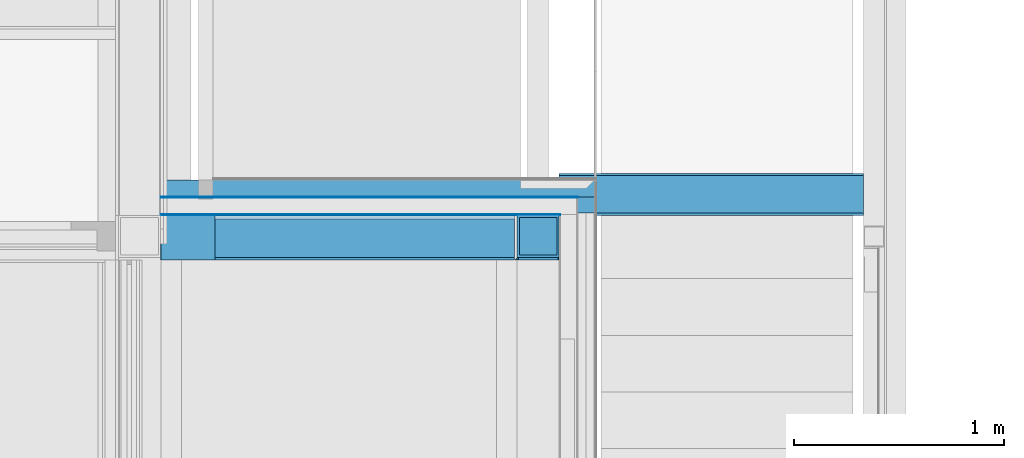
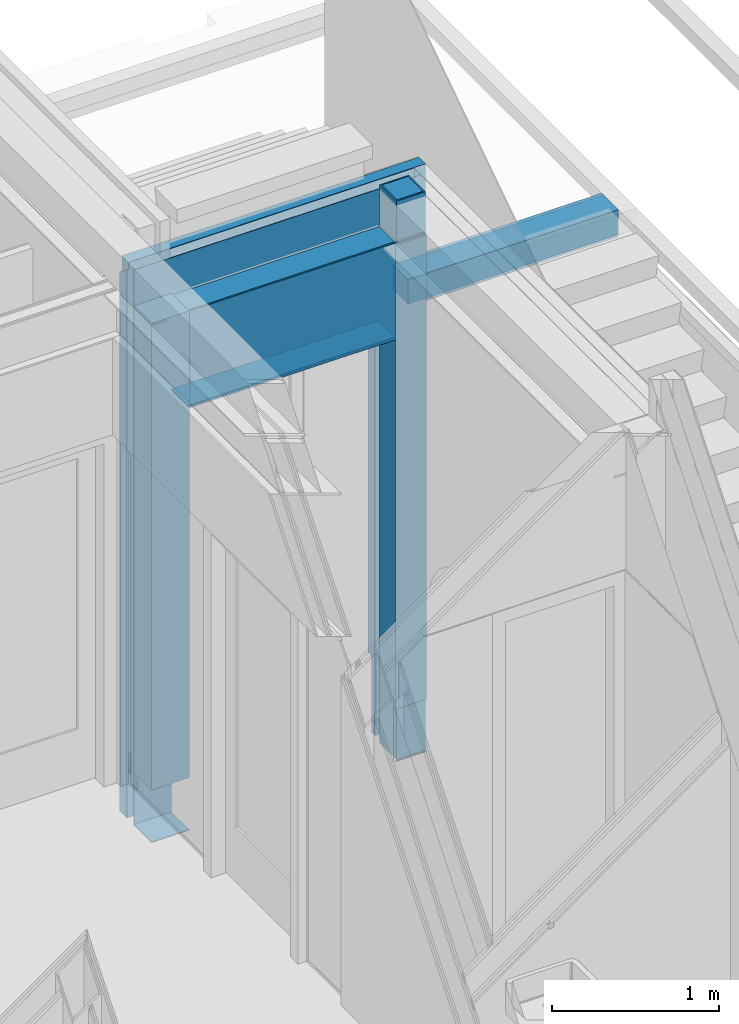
# One storey, part 95 of 165: 11 building element parts, 1 opening, 4 elements without a shape of their own.
"""IFC2X3 building model written with IfcOpenShell, lengths in millimetres."""

from ifc_helpers import new_model, entity, si_unit, converted_unit, derived_unit, money_unit, direction, frame, origin_with_axes, place, context, subcontext, project, spatial, faceted_brep, material, type_object, element, aggregate, save


model = new_model("IFC2X3")

# Units and contexts
model_context = context("Model", 3, precision=0.01, world=origin_with_axes(), true_north=direction((0.0, 1.0)))
body_context = subcontext(model_context, "Body", "Model", "MODEL_VIEW")
ifc_project = project(units=[si_unit("LENGTHUNIT", "METRE", prefix="MILLI"), si_unit("AREAUNIT", "SQUARE_METRE"), si_unit("VOLUMEUNIT", "CUBIC_METRE"), converted_unit("PLANEANGLEUNIT", "DEGREE", entity("IfcPlaneAngleMeasure", 0.0174532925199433), si_unit("PLANEANGLEUNIT", "RADIAN"), dimensions=[0, 0, 0, 0, 0, 0, 0]), money_unit("EUR"), converted_unit("TIMEUNIT", "Year", entity("IfcTimeMeasure", 31556926.0), si_unit("TIMEUNIT", "SECOND"), dimensions=[0, 0, 1, 0, 0, 0, 0]), si_unit("MASSUNIT", "GRAM", prefix="KILO"), si_unit("THERMODYNAMICTEMPERATUREUNIT", "DEGREE_CELSIUS"), si_unit("LUMINOUSINTENSITYUNIT", "LUMEN"), si_unit("ENERGYUNIT", "JOULE", prefix="MEGA"), derived_unit("THERMALCONDUCTANCEUNIT", [(si_unit("POWERUNIT", "WATT"), 1), (si_unit("LENGTHUNIT", "METRE"), -1), (si_unit("THERMODYNAMICTEMPERATUREUNIT", "KELVIN"), -1)]), derived_unit("SPECIFICHEATCAPACITYUNIT", [(si_unit("ENERGYUNIT", "JOULE"), 1), (si_unit("MASSUNIT", "GRAM", prefix="KILO"), -1), (si_unit("THERMODYNAMICTEMPERATUREUNIT", "KELVIN"), -1)]), derived_unit("MASSDENSITYUNIT", [(si_unit("MASSUNIT", "GRAM", prefix="KILO"), 1), (si_unit("VOLUMEUNIT", "CUBIC_METRE"), -1)])], contexts=[model_context])

# Site, building, storey
site_placement = place(None, origin_with_axes())
site = spatial("IfcSite", under=ifc_project, at=site_placement, Name="Site", CompositionType="ELEMENT")
building_placement = place(site_placement, origin_with_axes())
building = spatial("IfcBuilding", under=site, at=building_placement, Name="Naam gebouw", CompositionType="ELEMENT")
storey_placement = place(building_placement, origin_with_axes())
storey = spatial("IfcBuildingStorey", under=building, at=storey_placement, Name="Begane grond", CompositionType="ELEMENT", Elevation=0.0)

# Wall, opening, building element parts
wall_type = type_object("IfcWallType", Name="21 STO Buitengevelisolatie 160 390", PredefinedType="NOTDEFINED")
wall_placement = place(storey_placement, frame((26600.0, 22424.97624141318, -485.0), z_axis=(0.0, 0.0, 1.0), x_axis=(0.9999999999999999, -1.495042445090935e-08, 0.0)))
wall = element("IfcWall", 1, at=wall_placement, inside=storey, type_object=wall_type, Name="21_Wand-x")
opening_placement = place(wall_placement, frame((983.0000330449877, 0.0, 475.0), z_axis=(0.0, 0.0, 1.0), x_axis=(1.0, 0.0, 0.0)))
element("IfcOpeningElement", 2, at=opening_placement, cuts=wall, Name="_Merk AE", context=body_context, shape_type="Brep", body=[
    faceted_brep([(723.0000324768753, 2.550542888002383e-05, -600.0000000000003), (723.0000324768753, 2.550542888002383e-05, 2619.999999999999), (723.0000324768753, 2.550542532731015e-05, 4119.999999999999), (723.0000353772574, -193.9999974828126, 4119.999999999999), (723.0000353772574, -193.9999974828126, -15600.0), (723.0000324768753, 2.550542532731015e-05, -15600.0), (723.0000314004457, 72.00002550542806, -600.0000000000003), (723.0000314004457, 72.00002550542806, 2619.999999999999), (-723.0000388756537, 3.887112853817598e-06, 2619.999999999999), (-723.0000388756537, 3.887109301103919e-06, 4119.999999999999), (-723.0000356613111, -215.000024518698, 4119.999999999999), (702.0000293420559, -215.0000032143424, 4119.999999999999), (702.0000293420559, -215.0000032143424, -15600.0), (-723.0000388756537, 3.887109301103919e-06, -15600.0), (-723.0000356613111, -215.000024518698, -15600.0), (-723.0000388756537, 3.887112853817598e-06, -600.0000000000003), (-723.0000399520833, 72.00000388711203, -600.0000000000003), (-723.0000399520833, 72.00000388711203, 2619.999999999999), (-733.0000399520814, 72.00000373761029, 2619.999999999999), (-733.0000399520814, 72.00000373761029, -800.0000000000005), (733.0000314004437, 72.00002565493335, -800.0000000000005), (733.0000314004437, 72.00002565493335, 2619.999999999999), (733.0000298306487, 177.0000256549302, 2619.999999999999), (-733.0000415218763, 177.0000037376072, 2619.999999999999), (-733.0000415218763, 177.0000037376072, -800.0000000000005), (733.0000298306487, 177.0000256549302, -800.0000000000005)], [[[0, 1, 2, 3, 4, 5]], [[1, 0, 6, 7]], [[1, 8, 9, 2]], [[2, 9, 10, 11, 3]], [[3, 11, 12, 4]], [[13, 5, 4, 12, 14]], [[15, 0, 5, 13]], [[0, 15, 16, 6]], [[16, 17, 18, 19, 20, 21, 7, 6]], [[8, 1, 7, 17]], [[8, 15, 13, 14, 10, 9]], [[10, 14, 12, 11]], [[15, 8, 17, 16]], [[17, 7, 21, 22, 23, 18]], [[19, 18, 23, 24]], [[20, 19, 24, 25]], [[21, 20, 25, 22]], [[22, 25, 24, 23]]]),
])
ifc_material_1 = material(Name="Isolatie - STO EPS")
building_element_part_1_placement = place(wall_placement, origin_with_axes())
building_element_part_1 = element("IfcBuildingElementPart", 3, at=building_element_part_1_placement, material=ifc_material_1, Name="Isolatie - STO EPS", context=body_context, shape_type="Brep", body=[
    faceted_brep([(249.9999986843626, 88.00000373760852, 3095.0), (249.9999974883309, 167.9999999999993, 3095.0), (1716.000063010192, 168.0000256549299, 3094.999999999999), (1716.000064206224, 88.00002565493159, 3094.999999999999), (179.9999974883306, 167.9999989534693, 3095.0), (179.9999986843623, 88.00000209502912, 3095.0), (179.9999974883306, 167.9999989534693, 0.0), (-2.511669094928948e-06, 167.9999999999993, 0.0), (-2.511669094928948e-06, 167.9999999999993, 3941.578214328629), (14.99999748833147, 168.0000002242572, 3941.578214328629), (14.99999748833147, 168.0000002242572, 4055.0), (2068.000071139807, 168.0000309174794, 4055.0), (2068.000071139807, 168.0000309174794, 3325.0), (1900.000063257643, 168.0000284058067, 3325.0), (1900.000063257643, 168.0000284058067, 3125.0), (2068.000071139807, 168.0000309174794, 3125.0), (2068.000086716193, 168.000015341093, 565.0000000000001), (1716.000068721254, 168.0000256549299, 565.0000000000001), (29.99999748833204, 168.0000004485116, 528.4217856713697), (14.99999748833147, 168.0000002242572, 528.4217856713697), (14.99999748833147, 168.0000002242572, 379.0263383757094), (29.99999748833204, 168.0000004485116, 379.0263383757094), (1849.999980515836, 168.0000276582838, 3415.000062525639), (1749.999980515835, 168.0000261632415, 3415.000062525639), (1749.999980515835, 168.0000261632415, 3315.00006252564), (1849.999980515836, 168.0000276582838, 3315.00006252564), (1716.000064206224, 88.00002505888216, 0.0), (1716.000068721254, 127.9999999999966, 565.0000000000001), (1716.000068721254, 127.9999999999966, 0.0), (2028.000072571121, 88.00003025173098, 0.0), (2028.000072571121, 88.00003031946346, 565.0000000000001), (2068.000069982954, 88.0000309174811, 565.0000000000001), (2068.000069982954, 88.0000309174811, 3125.0), (1900.000064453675, 88.00002840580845, 3125.0), (1900.000064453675, 88.00002840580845, 3325.0), (2068.000069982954, 88.0000309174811, 3325.0), (2068.000069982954, 88.0000309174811, 4055.0), (14.99999868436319, 88.00000022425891, 4055.0), (14.99999868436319, 88.00000022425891, 4000.904055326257), (-1.315637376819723e-06, 88.00000000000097, 4000.904055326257), (-1.315637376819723e-06, 88.00000000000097, 0.0), (179.9999986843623, 88.0000022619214, 0.0), (29.99999868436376, 88.0000004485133, 469.0959446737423), (29.99999868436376, 88.0000004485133, 319.700497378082), (14.99999868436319, 88.00000022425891, 319.700497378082), (14.99999868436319, 88.00000022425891, 469.0959446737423), (1849.999981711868, 88.00002765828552, 3415.000062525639), (1849.999981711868, 88.00002765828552, 3315.00006252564), (1749.999981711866, 88.0000261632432, 3315.00006252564), (1749.999981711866, 88.0000261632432, 3415.000062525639), (2028.000071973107, 127.999999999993, 565.0000000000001), (2028.000071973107, 127.999999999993, 0.0)], [[[0, 1, 2, 3]], [[4, 1, 0, 5]], [[4, 6, 7, 8, 9, 10, 11, 12, 13, 14, 15, 16, 17, 2, 1], [18, 19, 20, 21], [22, 23, 24, 25]], [[26, 3, 2, 17, 27, 28]], [[5, 0, 3, 26, 29, 30, 31, 32, 33, 34, 35, 36, 37, 38, 39, 40, 41], [42, 43, 44, 45], [46, 47, 48, 49]], [[6, 4, 5, 41]], [[6, 41, 40, 7]], [[7, 40, 39, 8]], [[39, 38, 9, 8]], [[9, 38, 37, 10]], [[36, 11, 10, 37]], [[11, 36, 35, 12]], [[35, 34, 13, 12]], [[14, 13, 34, 33]], [[14, 33, 32, 15]], [[16, 15, 32, 31]], [[50, 27, 17, 16, 31, 30]], [[42, 45, 19, 18]], [[45, 44, 20, 19]], [[44, 43, 21, 20]], [[43, 42, 18, 21]], [[46, 49, 23, 22]], [[49, 48, 24, 23]], [[48, 47, 25, 24]], [[47, 46, 22, 25]], [[51, 28, 27, 50]], [[29, 26, 28, 51]], [[50, 30, 29, 51]]]),
    faceted_brep([(1754.999981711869, 88.00002623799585, 3320.00006252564), (1844.999981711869, 88.00002758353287, 3320.00006252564), (1844.999981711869, 88.00002758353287, 3410.000062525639), (1754.999981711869, 88.00002623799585, 3410.000062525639), (1754.999980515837, 168.0000262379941, 3320.00006252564), (1844.999980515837, 168.0000275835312, 3320.00006252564), (1844.999980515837, 168.0000275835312, 3410.000062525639), (1754.999980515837, 168.0000262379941, 3410.000062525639)], [[[0, 1, 2, 3]], [[4, 5, 1, 0]], [[5, 6, 2, 1]], [[6, 7, 3, 2]], [[7, 4, 0, 3]], [[4, 7, 6, 5]]]),
])
ifc_material_2 = material(Name="STO lijmlaag")
building_element_part_2_placement = place(wall_placement, origin_with_axes())
building_element_part_2 = element("IfcBuildingElementPart", 4, at=building_element_part_2_placement, material=ifc_material_2, Name="STO lijmlaag", context=body_context, shape_type="Brep", body=[
    faceted_brep([(249.9999987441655, 84.00000373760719, 3095.0), (249.9999986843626, 88.00000373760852, 3095.0), (1716.000064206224, 88.00002565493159, 3094.999999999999), (1716.000064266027, 84.00002565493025, 3094.999999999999), (179.9999986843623, 88.00000269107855, 3095.0), (179.9999987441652, 84.00000269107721, 3095.0), (179.9999986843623, 88.0000022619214, 0.0), (-1.315637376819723e-06, 88.00000000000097, 0.0), (-1.315637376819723e-06, 88.00000000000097, 4000.904055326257), (14.99999868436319, 88.00000022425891, 4000.904055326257), (14.99999868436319, 88.00000022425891, 4055.0), (1988.000069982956, 88.00002972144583, 4055.0), (1988.000069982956, 88.00002972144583, 3325.0), (1900.000064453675, 88.00002840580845, 3325.0), (1900.000064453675, 88.00002840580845, 3125.0), (1988.000069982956, 88.00002972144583, 3125.0), (1988.000069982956, 88.00002972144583, 0.0), (1716.000064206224, 88.00002505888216, 0.0), (29.99999868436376, 88.0000004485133, 319.700497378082), (29.99999868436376, 88.0000004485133, 469.0959446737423), (14.99999868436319, 88.00000022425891, 469.0959446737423), (14.99999868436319, 88.00000022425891, 319.700497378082), (1849.999981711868, 88.00002765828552, 3315.00006252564), (1849.999981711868, 88.00002765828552, 3415.000062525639), (1749.999981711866, 88.0000261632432, 3415.000062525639), (1749.999981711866, 88.0000261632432, 3315.00006252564), (1716.000064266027, 83.99999905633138, 0.0), (1988.000069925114, 84.00002972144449, 0.0), (1988.000069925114, 84.00002972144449, 3125.0), (1900.000064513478, 84.00002840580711, 3125.0), (1900.000064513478, 84.00002840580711, 3325.0), (1988.000069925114, 84.00002972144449, 3325.0), (1988.000069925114, 84.00002972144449, 4055.0), (14.99999874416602, 84.00000022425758, 4055.0), (14.99999874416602, 84.00000022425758, 4003.870347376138), (-1.255834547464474e-06, 83.99999999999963, 4003.870347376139), (-1.255834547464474e-06, 83.99999999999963, 0.0), (179.9999987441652, 83.99998354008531, 0.0), (14.99999874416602, 84.00000022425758, 466.12965262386), (29.99999874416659, 84.00000044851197, 466.12965262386), (29.99999874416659, 84.00000044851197, 316.7342053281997), (14.99999874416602, 84.00000022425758, 316.7342053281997), (1749.999981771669, 84.00002616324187, 3415.000062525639), (1849.99998177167, 84.00002765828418, 3415.000062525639), (1849.99998177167, 84.00002765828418, 3315.00006252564), (1749.999981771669, 84.00002616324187, 3315.00006252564)], [[[0, 1, 2, 3]], [[4, 1, 0, 5]], [[4, 6, 7, 8, 9, 10, 11, 12, 13, 14, 15, 16, 17, 2, 1], [18, 19, 20, 21], [22, 23, 24, 25]], [[26, 3, 2, 17]], [[5, 0, 3, 26, 27, 28, 29, 30, 31, 32, 33, 34, 35, 36, 37], [38, 39, 40, 41], [42, 43, 44, 45]], [[6, 4, 5, 37]], [[6, 37, 36, 7]], [[8, 7, 36, 35]], [[8, 35, 34, 9]], [[10, 9, 34, 33]], [[33, 32, 11, 10]], [[12, 11, 32, 31]], [[12, 31, 30, 13]], [[29, 14, 13, 30]], [[15, 14, 29, 28]], [[28, 27, 16, 15]], [[16, 27, 26, 17]], [[18, 40, 39, 19]], [[19, 39, 38, 20]], [[20, 38, 41, 21]], [[21, 41, 40, 18]], [[22, 44, 43, 23]], [[23, 43, 42, 24]], [[24, 42, 45, 25]], [[25, 45, 44, 22]]]),
    faceted_brep([(1754.999981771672, 84.00002623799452, 3320.00006252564), (1844.999981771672, 84.00002758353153, 3320.00006252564), (1844.999981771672, 84.00002758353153, 3410.000062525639), (1754.999981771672, 84.00002623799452, 3410.000062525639), (1754.999981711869, 88.00002623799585, 3320.00006252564), (1844.999981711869, 88.00002758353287, 3320.00006252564), (1844.999981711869, 88.00002758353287, 3410.000062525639), (1754.999981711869, 88.00002623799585, 3410.000062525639)], [[[0, 1, 2, 3]], [[4, 5, 1, 0]], [[5, 6, 2, 1]], [[6, 7, 3, 2]], [[7, 4, 0, 3]], [[4, 7, 6, 5]]]),
])
building_element_part_3_placement = place(wall_placement, origin_with_axes())
building_element_part_3 = element("IfcBuildingElementPart", 5, at=building_element_part_3_placement, material=ifc_material_2, Name="STO lijmlaag", context=body_context, shape_type="Brep", body=[
    faceted_brep([(1706.000065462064, 4.000025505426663, 3095.0), (259.9999941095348, 4.000003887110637, 3095.0), (259.9999941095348, 4.000001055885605, 0.0), (-5.979927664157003e-08, 4.000000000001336, 0.0), (-5.979927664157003e-08, 4.000000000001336, 4055.0), (1904.000068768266, 4.000028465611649, 4055.0), (1904.000068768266, 4.000028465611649, 3325.0), (1900.000065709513, 4.00002840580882, 3325.0), (1900.000065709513, 4.00002840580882, 3125.0), (1904.000068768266, 4.000028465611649, 3125.0), (1904.000068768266, 4.000028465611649, 0.0), (1706.000065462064, 4.000022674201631, 0.0), (29.99999994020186, 4.000000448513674, 257.4083643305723), (29.99999994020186, 4.000000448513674, 406.8038116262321), (14.99999994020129, 4.000000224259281, 406.8038116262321), (14.99999994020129, 4.000000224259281, 257.4083643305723), (1849.999982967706, 4.000027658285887, 3315.00006252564), (1849.999982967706, 4.000027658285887, 3415.000062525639), (1749.999982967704, 4.000026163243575, 3415.000062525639), (1749.999982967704, 4.000026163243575, 3315.00006252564), (259.9999941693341, 3.887112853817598e-06, 3095.0), (1706.000065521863, 2.550542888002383e-05, 3095.0), (259.9999941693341, 3.887112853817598e-06, 0.0), (0.0, 0.0, 0.0), (0.0, 0.0, 3778.0), (-3.517186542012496e-10, 0.02360565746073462, 3778.0), (-3.517186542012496e-10, 0.02360565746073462, 4055.0), (0.999999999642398, 0.02360567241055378, 4055.0), (0.9999999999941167, 1.494981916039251e-08, 4055.0), (1904.00006871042, 2.846561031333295e-05, 4055.0), (1904.00006871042, 2.846561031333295e-05, 0.0), (1904.000068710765, 0.02363412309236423, 3125.0), (1904.000068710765, 0.02363412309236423, 3325.0), (1900.00006576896, 0.02363406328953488, 3325.0), (1900.00006576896, 0.02363406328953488, 3125.0), (1706.000065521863, 2.550542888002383e-05, 0.0), (30.00000000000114, 4.485123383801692e-07, 254.44207228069), (30.00000000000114, 4.485123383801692e-07, 403.8375195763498), (15.00000000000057, 2.24257945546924e-07, 403.8375195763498), (15.00000000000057, 2.24257945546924e-07, 254.44207228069), (1849.999983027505, 3.133386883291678e-07, 3315.00006252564), (1849.999983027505, 3.133386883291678e-07, 3415.000062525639), (1749.999983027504, -1.181703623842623e-06, 3415.000062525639), (1749.999983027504, -1.181703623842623e-06, 3315.00006252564), (0.9999999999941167, 1.494981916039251e-08, 3790.0), (99.00000447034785, 1.480092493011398e-06, 3790.0), (99.00000447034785, 1.480092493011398e-06, 3778.0), (99.00000446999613, 0.02360713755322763, 3778.0), (99.00000446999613, 0.02360713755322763, 3790.0), (0.999999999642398, 0.02360567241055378, 3790.0)], [[[0, 1, 2, 3, 4, 5, 6, 7, 8, 9, 10, 11], [12, 13, 14, 15], [16, 17, 18, 19]], [[20, 1, 0, 21]], [[22, 2, 1, 20]], [[3, 2, 22, 23]], [[3, 23, 24, 25, 26, 4]], [[5, 4, 26, 27, 28, 29]], [[30, 10, 9, 31, 32, 6, 5, 29]], [[6, 32, 33, 7]], [[7, 33, 34, 8]], [[9, 8, 34, 31]], [[30, 35, 11, 10]], [[21, 0, 11, 35]], [[12, 36, 37, 13]], [[13, 37, 38, 14]], [[14, 38, 39, 15]], [[15, 39, 36, 12]], [[16, 40, 41, 17]], [[17, 41, 42, 18]], [[18, 42, 43, 19]], [[19, 43, 40, 16]], [[20, 21, 35, 30, 29, 28, 44, 45, 46, 24, 23, 22], [38, 37, 36, 39], [42, 41, 40, 43]], [[46, 47, 25, 24]], [[47, 48, 49, 27, 26, 25]], [[27, 49, 44, 28]], [[31, 34, 33, 32]], [[44, 49, 48, 45]], [[45, 48, 47, 46]]]),
    faceted_brep([(1754.999983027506, -1.106950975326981e-06, 3410.000062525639), (1754.999983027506, -1.106950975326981e-06, 3320.00006252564), (1844.999983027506, 2.385860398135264e-07, 3320.00006252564), (1844.999983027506, 2.385860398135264e-07, 3410.000062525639), (1754.999982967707, 4.000026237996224, 3410.000062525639), (1754.999982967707, 4.000026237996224, 3320.00006252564), (1844.999982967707, 4.000027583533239, 3320.00006252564), (1844.999982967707, 4.000027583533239, 3410.000062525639)], [[[0, 1, 2, 3]], [[0, 4, 5, 1]], [[1, 5, 6, 2]], [[2, 6, 7, 3]], [[3, 7, 4, 0]], [[6, 5, 4, 7]]]),
])
ifc_material_3 = material(Name="Steen - Kalkzandsteen C")
building_element_part_4_placement = place(wall_placement, origin_with_axes())
building_element_part_4 = element("IfcBuildingElementPart", 6, at=building_element_part_4_placement, material=ifc_material_3, Name="Steen - Kalkzandsteen C", context=body_context, shape_type="Brep", body=[
    faceted_brep([(0.0, -2.734494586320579e-05, 5.000000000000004), (259.9999941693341, -2.345783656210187e-05, 5.000000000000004), (259.9999941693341, 3.887112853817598e-06, 0.0), (0.0, 0.0, 0.0), (259.9999973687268, -213.9999961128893, 5.000000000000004), (3.253951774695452e-06, -213.9999999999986, 5.000000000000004), (259.9999973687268, -213.9999961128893, 0.0), (3.199392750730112e-06, -213.9999999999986, 0.0)], [[[0, 1, 2, 3]], [[4, 1, 0, 5]], [[1, 4, 6, 2]], [[3, 2, 6, 7]], [[5, 0, 3, 7]], [[4, 5, 7, 6]]]),
    faceted_brep([(1700.000025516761, -200.0000403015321, 5.000000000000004), (1899.999987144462, -199.9999989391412, 5.000000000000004), (1899.999984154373, 1.060861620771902e-06, 5.000000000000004), (1706.000065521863, -1.839520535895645e-06, 5.000000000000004), (1706.000068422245, -193.9999974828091, 5.000000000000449), (1899.999987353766, -213.9999715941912, 5.000000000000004), (1686.000090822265, -213.9999747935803, 5.000000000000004), (1900.000065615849, -213.9999715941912, 0.0), (1900.000068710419, 2.84058074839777e-05, 0.0), (1706.000065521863, 2.550542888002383e-05, 0.0), (1706.000068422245, -193.9999974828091, 0.0), (1686.000090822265, -213.9999747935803, 0.0)], [[[0, 1, 2, 3, 4]], [[5, 1, 0, 6]], [[1, 5, 7, 8, 2]], [[8, 9, 3, 2]], [[10, 4, 3, 9]], [[6, 0, 4, 10, 11]], [[5, 6, 11, 7]], [[11, 10, 9, 8, 7]]]),
    faceted_brep([(259.9999973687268, -213.9999961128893, 384.9999999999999), (259.9999941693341, -2.345783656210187e-05, 384.9999999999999), (259.9999941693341, 3.887109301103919e-06, 3795.0), (259.9999973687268, -213.9999961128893, 3795.0), (30.00000000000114, -2.689643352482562e-05, 384.9999999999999), (7.40031325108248e-06, -213.9999999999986, 384.9999999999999), (0.0, -2.734494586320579e-05, 384.9999999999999), (15.00000000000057, -2.712068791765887e-05, 384.9999999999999), (15.000000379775, -25.40211023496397, 384.9999999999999), (30.00000037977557, -25.40211001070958, 384.9999999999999), (4.453884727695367e-05, 1.156053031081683e-06, 3778.0), (99.00000447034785, 2.641346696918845e-06, 3778.0), (99.00000447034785, 2.641346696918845e-06, 3790.0), (0.9999999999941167, 1.176204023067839e-06, 3790.0), (0.9999999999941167, 1.160643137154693e-06, 3795.0), (30.00000000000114, 1.609766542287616e-06, 403.8375204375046), (15.00000000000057, 1.385512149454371e-06, 403.8375204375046), (1.000003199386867, -213.9999999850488, 3795.0), (1.000003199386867, -213.9999999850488, 3790.0), (99.0000076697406, -213.9999985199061, 3790.0), (99.0000076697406, -213.9999985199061, 3778.0), (4.442297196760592e-05, -213.9999999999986, 3778.0)], [[[0, 1, 2, 3]], [[4, 1, 0, 5, 6, 7, 8, 9]], [[7, 6, 10, 11, 12, 13, 14, 2, 1, 4, 15, 16]], [[17, 3, 2, 14]], [[5, 0, 3, 17, 18, 19, 20, 21]], [[6, 5, 21, 10]], [[8, 7, 16]], [[9, 8, 16, 15]], [[4, 9, 15]], [[10, 21, 20, 11]], [[11, 20, 19, 12]], [[12, 19, 18, 13]], [[14, 13, 18, 17]]]),
    faceted_brep([(1899.999987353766, -213.9999715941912, 384.9999999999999), (1899.999987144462, -199.9999989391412, 384.9999999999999), (1899.999987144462, -199.9999989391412, 3778.0), (1900.000068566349, -213.9999715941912, 3778.0), (1700.000025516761, -200.0000403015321, 384.9999999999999), (1686.000090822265, -213.9999747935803, 384.9999999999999), (1700.000025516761, -200.0000403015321, 3778.0), (1686.000090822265, -213.9999747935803, 3777.999999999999)], [[[0, 1, 2, 3]], [[4, 1, 0, 5]], [[1, 4, 6, 2]], [[2, 6, 7, 3]], [[5, 0, 3, 7]], [[4, 5, 7, 6]]]),
    faceted_brep([(1894.999986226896, -213.9999716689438, 3790.0), (1894.999986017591, -199.9999990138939, 3790.0), (1894.999986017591, -199.9999990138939, 3795.0), (1894.999986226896, -213.9999716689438, 3795.0), (1704.999986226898, -213.9999745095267, 3790.0), (1704.999986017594, -200.0000018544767, 3790.0), (1704.999986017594, -200.0000018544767, 3795.0), (1704.999986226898, -213.9999745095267, 3795.0)], [[[0, 1, 2, 3]], [[4, 5, 1, 0]], [[5, 6, 2, 1]], [[3, 2, 6, 7]], [[7, 4, 0, 3]], [[7, 6, 5, 4]]]),
    faceted_brep([(1698.999986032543, -201.000079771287, 3790.0), (1698.999986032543, -201.000079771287, 3795.0), (1698.999986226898, -213.9999745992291, 3795.0), (1698.999986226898, -213.9999745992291, 3790.0), (1686.000090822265, -213.9999747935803, 3795.0), (1686.000090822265, -213.9999747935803, 3790.0)], [[[0, 1, 2, 3]], [[4, 1, 0, 5]], [[1, 4, 2]], [[4, 5, 3, 2]], [[5, 0, 3]]]),
])
aggregate(wall, [building_element_part_1, building_element_part_2, building_element_part_3, building_element_part_4])

# Column, building element parts
column_type = type_object("IfcColumnType", Name="200X200X10 200 x 200", PredefinedType="COLUMN")
column_placement = place(storey_placement, frame((28399.99998415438, 22324.97621406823, -480.0), z_axis=(0.0, 0.0, 1.0), x_axis=(1.0, 0.0, 0.0)))
column = element("IfcColumn", 7, at=column_placement, inside=storey, type_object=column_type, Name="28_Kolom-x", ObjectType="COLUMN")
ifc_material_4 = material(Name="Beton gewapend C")
building_element_part_5_placement = place(column_placement, origin_with_axes())
building_element_part_5 = element("IfcBuildingElementPart", 8, at=building_element_part_5_placement, material=ifc_material_4, Name="Beton gewapend C", context=body_context, shape_type="Brep", body=[
    faceted_brep([(-89.99999999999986, 89.99999999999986, 3773.0), (89.99999999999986, 89.99999999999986, 3773.0), (89.99999999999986, 89.99999999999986, 0.0), (-89.99999999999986, 89.99999999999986, 0.0), (89.99999999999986, -89.99999999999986, 3773.0), (-89.99999999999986, -89.99999999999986, 3773.0), (89.99999999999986, -89.99999999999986, 0.0), (-89.99999999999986, -89.99999999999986, 0.0)], [[[0, 1, 2, 3]], [[4, 1, 0, 5]], [[1, 4, 6, 2]], [[2, 6, 7, 3]], [[5, 0, 3, 7]], [[4, 5, 7, 6]]]),
    faceted_brep([(89.99999999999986, -89.99999999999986, 4050.000000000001), (89.99999999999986, 89.99999999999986, 4050.000000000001), (89.99999999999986, 89.99999999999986, 4079.999999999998), (89.99999999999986, -89.99999999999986, 4079.999999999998), (-89.99999999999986, 89.99999999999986, 4050.000000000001), (-89.99999999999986, -89.99999999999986, 4050.000000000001), (-89.99999999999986, 89.99999999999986, 4079.999999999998), (-89.99999999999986, -89.99999999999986, 4079.999999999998)], [[[0, 1, 2, 3]], [[4, 1, 0, 5]], [[1, 4, 6, 2]], [[2, 6, 7, 3]], [[5, 0, 3, 7]], [[4, 5, 7, 6]]]),
    faceted_brep([(89.99999999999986, -89.99999999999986, 3785.0), (89.99999999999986, 89.99999999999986, 3785.0), (89.99999999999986, 89.99999999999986, 3790.0), (89.99999999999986, -89.99999999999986, 3790.0), (-89.99999999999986, 89.99999999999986, 3785.0), (-89.99999999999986, -89.99999999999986, 3785.0), (-89.99999999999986, 89.99999999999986, 3790.0), (-89.99999999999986, -89.99999999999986, 3790.0)], [[[0, 1, 2, 3]], [[4, 1, 0, 5]], [[1, 4, 6, 2]], [[7, 3, 2, 6]], [[5, 0, 3, 7]], [[4, 5, 7, 6]]]),
])
ifc_material_5 = material(Name="Metaal - Staal C")
building_element_part_6_placement = place(column_placement, origin_with_axes())
building_element_part_6 = element("IfcBuildingElementPart", 9, at=building_element_part_6_placement, material=ifc_material_5, Name="Metaal - Staal C", context=body_context, shape_type="Brep", body=[
    faceted_brep([(-100.0000000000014, -100.0000000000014, 0.0), (100.0000000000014, -100.0000000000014, 0.0), (100.0000000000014, -100.0000000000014, 4079.999999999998), (-100.0000000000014, -100.0000000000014, 4079.999999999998), (-100.0000000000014, 100.0000000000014, 0.0), (100.0000000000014, 100.0000000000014, 0.0), (-89.99999999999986, -89.99999999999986, 0.0), (89.99999999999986, -89.99999999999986, 0.0), (89.99999999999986, 89.99999999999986, 0.0), (-89.99999999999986, 89.99999999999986, 0.0), (100.0000000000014, 100.0000000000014, 4079.999999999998), (-100.0000000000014, 100.0000000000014, 4079.999999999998), (-89.99999999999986, -89.99999999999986, 4079.999999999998), (-89.99999999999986, 89.99999999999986, 4079.999999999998), (89.99999999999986, 89.99999999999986, 4079.999999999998), (89.99999999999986, -89.99999999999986, 4079.999999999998)], [[[0, 1, 2, 3]], [[0, 4, 5, 1], [6, 7, 8, 9]], [[1, 5, 10, 2]], [[3, 2, 10, 11], [12, 13, 14, 15]], [[4, 0, 3, 11]], [[5, 4, 11, 10]], [[7, 6, 12, 15]], [[8, 7, 15, 14]], [[9, 8, 14, 13]], [[6, 9, 13, 12]]]),
])
aggregate(column, [building_element_part_5, building_element_part_6])

# Beam, building element parts
beam_type_1 = type_object("IfcBeamType", Name="200X200X10 200 x 200", PredefinedType="BEAM")
beam_1_placement = place(storey_placement, frame((28500.00006576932, 22524.99984707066, 2740.0), z_axis=(0.0, 0.0, 1.0), x_axis=(0.0, -1.0, 0.0)))
beam_1 = element("IfcBeam", 10, at=beam_1_placement, inside=storey, type_object=beam_type_1, Name="_Regenwaterafvoer-x", ObjectType="BEAM")
building_element_part_7_placement = place(beam_1_placement, origin_with_axes())
building_element_part_7 = element("IfcBuildingElementPart", 11, at=building_element_part_7_placement, material=ifc_material_4, Name="Beton gewapend C", context=body_context, shape_type="Brep", body=[
    faceted_brep([(-89.99999999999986, 1449.999950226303, -89.99999999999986), (89.99999999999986, 1449.999950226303, -89.99999999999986), (89.99999999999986, 0.0, -89.99999999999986), (-89.99999999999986, 0.0, -89.99999999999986), (-89.99999999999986, 1449.999950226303, 89.99999999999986), (89.99999999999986, 1449.999950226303, 89.99999999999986), (89.99999999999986, 0.0, 89.99999999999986), (-89.99999999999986, 0.0, 89.99999999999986)], [[[0, 1, 2, 3]], [[0, 4, 5, 1]], [[1, 5, 6, 2]], [[3, 2, 6, 7]], [[4, 0, 3, 7]], [[5, 4, 7, 6]]]),
])
building_element_part_8_placement = place(beam_1_placement, origin_with_axes())
building_element_part_8 = element("IfcBuildingElementPart", 12, at=building_element_part_8_placement, material=ifc_material_5, Name="Metaal - Staal C", context=body_context, shape_type="Brep", body=[
    faceted_brep([(-100.0000000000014, 1449.999950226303, -100.0000000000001), (100.0000000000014, 1449.999950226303, -100.0000000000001), (100.0000000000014, 0.0, -100.0000000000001), (-100.0000000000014, 0.0, -100.0000000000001), (-100.0000000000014, 1449.999950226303, 100.0000000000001), (100.0000000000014, 1449.999950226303, 100.0000000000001), (-89.99999999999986, 1449.999950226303, -89.99999999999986), (89.99999999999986, 1449.999950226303, -89.99999999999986), (89.99999999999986, 1449.999950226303, 89.99999999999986), (-89.99999999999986, 1449.999950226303, 89.99999999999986), (100.0000000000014, 0.0, 100.0000000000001), (-100.0000000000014, 0.0, 100.0000000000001), (-89.99999999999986, 0.0, -89.99999999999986), (-89.99999999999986, 0.0, 89.99999999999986), (89.99999999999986, 0.0, 89.99999999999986), (89.99999999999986, 0.0, -89.99999999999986)], [[[0, 1, 2, 3]], [[0, 4, 5, 1], [6, 7, 8, 9]], [[1, 5, 10, 2]], [[3, 2, 10, 11], [12, 13, 14, 15]], [[4, 0, 3, 11]], [[5, 4, 11, 10]], [[7, 6, 12, 15]], [[8, 7, 15, 14]], [[9, 8, 14, 13]], [[6, 9, 13, 12]]]),
])
aggregate(beam_1, [building_element_part_7, building_element_part_8])

beam_type_2 = type_object("IfcBeamType", Name="31 HSB boven kozijnen 214 x 1000", PredefinedType="BEAM")
beam_2_placement = place(storey_placement, frame((26859.99999416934, 22210.97623752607, 2600.000000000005), z_axis=(0.0, 0.0, 1.0), x_axis=(-1.495042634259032e-08, -0.9999999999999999, 0.0)))
beam_2 = element("IfcBeam", 13, at=beam_2_placement, inside=storey, type_object=beam_type_2, Name="28_Balk-x", ObjectType="BEAM")
ifc_material_6 = material(Name="Gipsplaat")
building_element_part_9_placement = place(beam_2_placement, origin_with_axes())
building_element_part_9 = element("IfcBuildingElementPart", 14, at=building_element_part_9_placement, material=ifc_material_6, Name="Gipsplaat", context=body_context, shape_type="Brep", body=[
    faceted_brep([(-214.0000025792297, 1426.000068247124, 12.00000596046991), (-214.0000025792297, 1426.000068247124, 0.0), (-214.0000025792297, 0.0, 0.0), (-214.0000025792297, 0.0, 12.00000596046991), (-11.99999661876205, 1426.000068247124, 12.00000596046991), (-11.99999661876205, 1426.000068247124, 0.0), (-11.99999661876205, 0.0, 0.0), (-11.99999661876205, 0.0, 12.00000596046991)], [[[0, 1, 2, 3]], [[0, 4, 5, 1]], [[1, 5, 6, 2]], [[3, 2, 6, 7]], [[4, 0, 3, 7]], [[5, 4, 7, 6]]]),
])
building_element_part_10_placement = place(beam_2_placement, origin_with_axes())
building_element_part_10 = element("IfcBuildingElementPart", 15, at=building_element_part_10_placement, material=ifc_material_6, Name="Gipsplaat", context=body_context, shape_type="Brep", body=[
    faceted_brep([(-11.99999661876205, 0.0, 709.9999999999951), (-11.99999661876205, 1426.000068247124, 709.9999999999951), (-11.99999661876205, 1426.000068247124, 0.0), (-11.99999661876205, 0.0, 0.0), (9.341707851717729e-06, 1426.000068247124, 709.9999999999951), (9.341707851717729e-06, 0.0, 709.9999999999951), (9.341707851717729e-06, 1426.000068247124, 0.0), (9.341711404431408e-06, 0.0, 0.0)], [[[0, 1, 2, 3]], [[4, 1, 0, 5]], [[1, 4, 6, 2]], [[3, 2, 6, 7]], [[5, 0, 3, 7]], [[4, 5, 7, 6]]]),
])
ifc_material_7 = material(Name="ALG - ISOLATIE")
building_element_part_11_placement = place(beam_2_placement, origin_with_axes())
building_element_part_11 = element("IfcBuildingElementPart", 16, at=building_element_part_11_placement, material=ifc_material_7, Name="ALG - ISOLATIE", context=body_context, shape_type="Brep", body=[
    faceted_brep([(-195.999999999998, 0.0, 709.9999999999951), (-196.0000000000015, 1426.000068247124, 709.9999999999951), (-196.0000000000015, 1426.000068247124, 49.99999999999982), (-195.999999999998, 0.0, 49.99999999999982), (-12.00000000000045, 1426.000068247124, 709.9999999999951), (-12.00000000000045, 0.0, 709.9999999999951), (-12.00000000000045, 1426.000068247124, 49.99999999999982), (-12.00000000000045, 0.0, 49.99999999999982)], [[[0, 1, 2, 3]], [[4, 1, 0, 5]], [[1, 4, 6, 2]], [[3, 2, 6, 7]], [[5, 0, 3, 7]], [[4, 5, 7, 6]]]),
])
aggregate(beam_2, [building_element_part_9, building_element_part_10, building_element_part_11])

save(model, "model.ifc")
